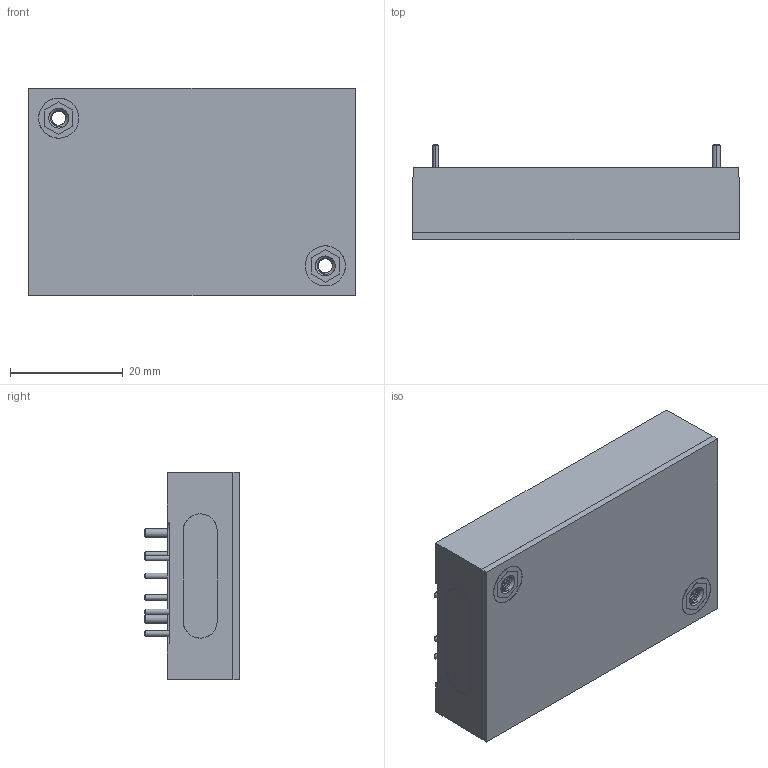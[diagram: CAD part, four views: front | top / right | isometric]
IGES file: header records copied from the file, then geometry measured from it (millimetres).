
Start section: SolidWorks IGES file using analytic representation for surfaces
Global section: file name: C:\Users\ksmith\OneDrive - XP Power\Desktop\Cincon CAD Files to Update\Cleaned Models\QHL75\QHL75-T.IGS; native system: SolidWorks 2020; preprocessor: SolidWorks 2020; author: ksmith; date: 210804.154522; units: inch
Bounding box: 57.9 x 16.9 x 36.8 mm (x, y, z)
Surface area: 19637.3 mm2 (no closed solid volume)
Topology: 0 solids, 0 shells, 673 faces, 8557 edges, 8557 vertices
Faces by surface type: bspline 461, revolution 212
